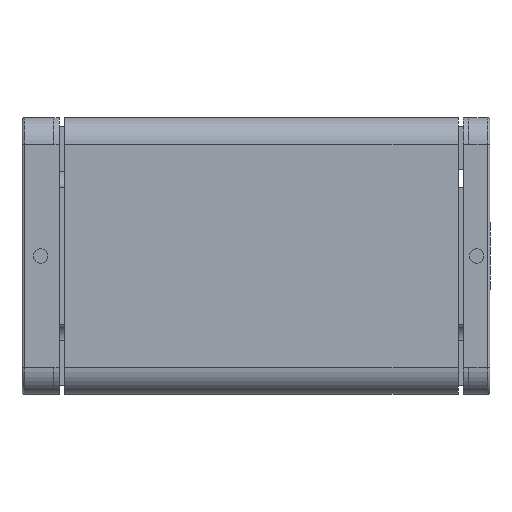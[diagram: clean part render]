
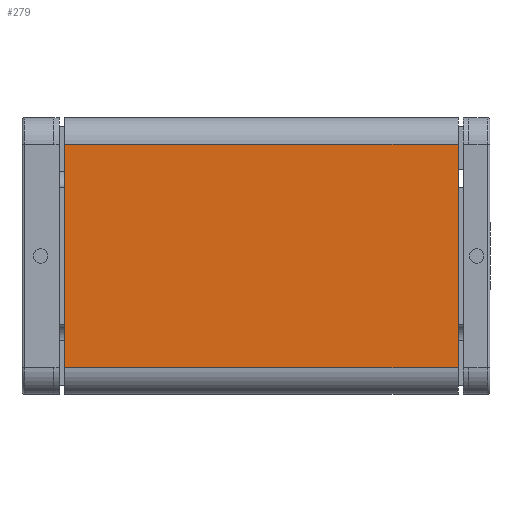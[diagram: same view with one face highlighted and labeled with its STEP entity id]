
A CAD part, front view. The second image highlights one B-rep face of the part: STEP entity #279.
In plain terms, the highlighted planar face has unit normal (0, -1, 0).
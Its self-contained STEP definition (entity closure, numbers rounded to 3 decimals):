
#279=ADVANCED_FACE('',(#595),#5254,.T.);
#595=FACE_OUTER_BOUND('',#954,.T.);
#954=EDGE_LOOP('',(#2141,#2142,#2143,#2144));
#2141=ORIENTED_EDGE('',*,*,#3221,.F.);
#2142=ORIENTED_EDGE('',*,*,#3220,.F.);
#2143=ORIENTED_EDGE('',*,*,#3219,.T.);
#2144=ORIENTED_EDGE('',*,*,#3177,.T.);
#3177=EDGE_CURVE('',#4940,#4941,#3644,.T.);
#3219=EDGE_CURVE('',#4981,#4940,#3649,.T.);
#3220=EDGE_CURVE('',#4981,#4982,#3650,.T.);
#3221=EDGE_CURVE('',#4982,#4941,#3651,.T.);
#3644=B_SPLINE_CURVE_WITH_KNOTS('',1,(#9600,#9601),.UNSPECIFIED.,.F.,.F.,
(2,2),(-42.,0.),.UNSPECIFIED.);
#3649=B_SPLINE_CURVE_WITH_KNOTS('',1,(#9721,#9722),.UNSPECIFIED.,.F.,.F.,
(2,2),(-79.,0.),.UNSPECIFIED.);
#3650=B_SPLINE_CURVE_WITH_KNOTS('',1,(#9723,#9724),.UNSPECIFIED.,.F.,.F.,
(2,2),(-42.,0.),.UNSPECIFIED.);
#3651=B_SPLINE_CURVE_WITH_KNOTS('',1,(#9725,#9726),.UNSPECIFIED.,.F.,.F.,
(2,2),(-79.,0.),.UNSPECIFIED.);
#4940=VERTEX_POINT('',#9386);
#4941=VERTEX_POINT('',#9387);
#4981=VERTEX_POINT('',#9427);
#4982=VERTEX_POINT('',#9428);
#5254=PLANE('',#5974);
#5974=AXIS2_PLACEMENT_3D('',#9278,#6828,$);
#6828=DIRECTION('',(0.,-1.,0.));
#9278=CARTESIAN_POINT('',(-8.592,0.,5.));
#9386=CARTESIAN_POINT('',(-8.592,0.,47.));
#9387=CARTESIAN_POINT('',(-8.592,0.,5.));
#9427=CARTESIAN_POINT('',(65.408,0.,47.));
#9428=CARTESIAN_POINT('',(65.408,0.,5.));
#9600=CARTESIAN_POINT('',(-8.592,0.,47.));
#9601=CARTESIAN_POINT('',(-8.592,0.,5.));
#9721=CARTESIAN_POINT('',(65.408,0.,47.));
#9722=CARTESIAN_POINT('',(-8.592,0.,47.));
#9723=CARTESIAN_POINT('',(65.408,0.,47.));
#9724=CARTESIAN_POINT('',(65.408,0.,5.));
#9725=CARTESIAN_POINT('',(65.408,0.,5.));
#9726=CARTESIAN_POINT('',(-8.592,0.,5.));
